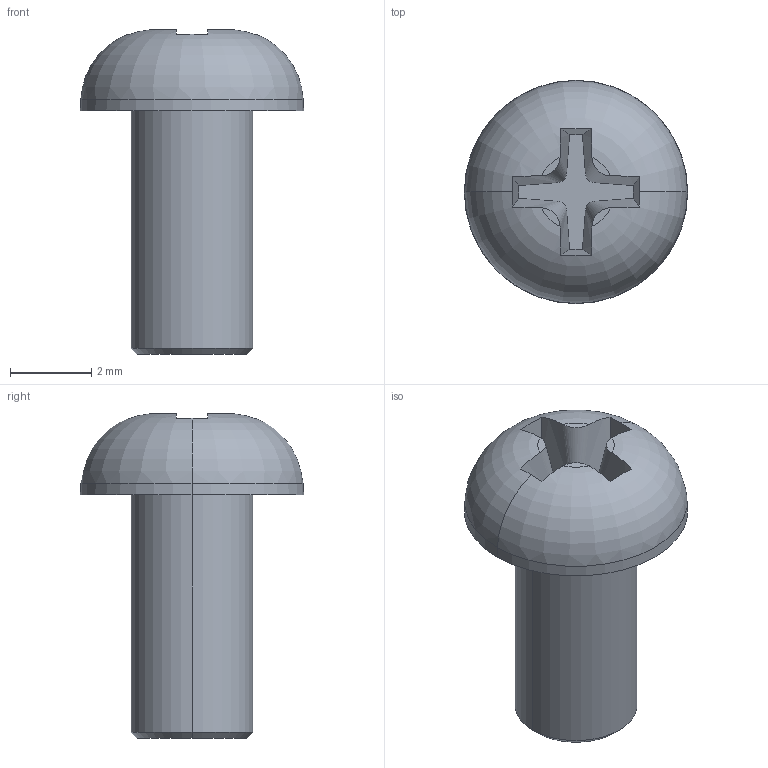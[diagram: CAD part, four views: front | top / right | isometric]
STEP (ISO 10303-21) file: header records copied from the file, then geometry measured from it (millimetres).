
FILE_DESCRIPTION (( 'STEP AP214' ), '1' );
FILE_NAME ('SCREW M3 X6 MM.STEP', '2024-06-18T04:31:23', ( '' ), ( '' ), 'SwSTEP 2.0', 'SolidWorks 2023', '' );
FILE_SCHEMA (( 'AUTOMOTIVE_DESIGN' ));
Length unit declared in the file: millimetre
Products named in the file (1): SCREW M3 X6 MM
Bounding box: 5.5 x 5.5 x 8 mm (x, y, z)
Volume: 74.4 mm3; surface area: 136.5 mm2
Topology: 1 solids, 1 shells, 23 faces, 72 edges, 52 vertices
Faces by surface type: plane 11, cone 4, bspline 4, cylinder 2, torus 2
Entity records: 1003 total; most frequent: CARTESIAN_POINT 346, ORIENTED_EDGE 144, DIRECTION 122, EDGE_CURVE 72, VERTEX_POINT 52, AXIS2_PLACEMENT_3D 48, CIRCLE 28, VECTOR 26
